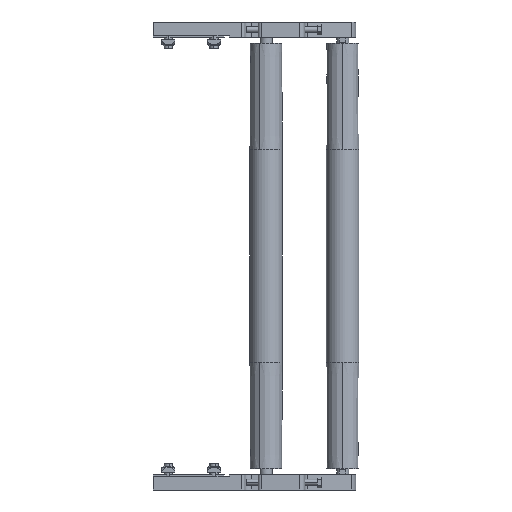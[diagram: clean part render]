
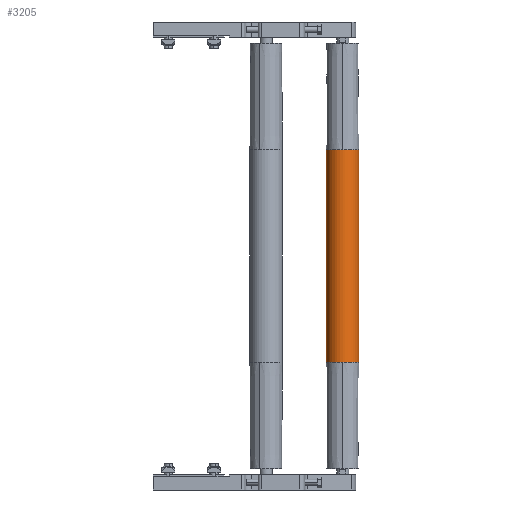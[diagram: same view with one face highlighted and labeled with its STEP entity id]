
A CAD part, front view. The second image highlights one B-rep face of the part: STEP entity #3205.
In plain terms, the highlighted cylindrical face has radius 16 mm (diameter 32 mm), a partial arc.
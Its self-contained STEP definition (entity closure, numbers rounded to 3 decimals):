
#232 = AXIS2_PLACEMENT_3D ( 'NONE', #9239, #11752, #9344 ) ;
#515 = CARTESIAN_POINT ( 'NONE',  ( 0., -16., -105. ) ) ;
#809 = DIRECTION ( 'NONE',  ( -1., 0., 0. ) ) ;
#926 = CARTESIAN_POINT ( 'NONE',  ( 0., 0., -105. ) ) ;
#1360 = VECTOR ( 'NONE', #6249, 1000. ) ;
#1707 = ORIENTED_EDGE ( 'NONE', *, *, #9451, .F. ) ;
#1891 = EDGE_CURVE ( 'NONE', #6751, #11869, #9816, .T. ) ;
#2155 = CARTESIAN_POINT ( 'NONE',  ( 16., 0., 210. ) ) ;
#2210 = DIRECTION ( 'NONE',  ( 0., 0., 1. ) ) ;
#2264 = DIRECTION ( 'NONE',  ( 0., -1., 0. ) ) ;
#2332 = CARTESIAN_POINT ( 'NONE',  ( 0., 0., -105. ) ) ;
#3205 = ADVANCED_FACE ( 'NONE', ( #10580 ), #10990, .T. ) ;
#3261 = CARTESIAN_POINT ( 'NONE',  ( -16., 0., -105. ) ) ;
#3507 = CARTESIAN_POINT ( 'NONE',  ( 0., 0., 105. ) ) ;
#3659 = CARTESIAN_POINT ( 'NONE',  ( 0., -16., 105. ) ) ;
#3833 = AXIS2_PLACEMENT_3D ( 'NONE', #13667, #8458, #809 ) ;
#4119 = AXIS2_PLACEMENT_3D ( 'NONE', #3507, #7497, #2264 ) ;
#4217 = ORIENTED_EDGE ( 'NONE', *, *, #7643, .F. ) ;
#5321 = ORIENTED_EDGE ( 'NONE', *, *, #15412, .T. ) ;
#5721 = CARTESIAN_POINT ( 'NONE',  ( 16., 0., -105. ) ) ;
#5794 = CARTESIAN_POINT ( 'NONE',  ( 16., 0., 105. ) ) ;
#6249 = DIRECTION ( 'NONE',  ( 0., 0., -1. ) ) ;
#6622 = VERTEX_POINT ( 'NONE', #16087 ) ;
#6751 = VERTEX_POINT ( 'NONE', #515 ) ;
#7341 = DIRECTION ( 'NONE',  ( 0., 0., -1. ) ) ;
#7497 = DIRECTION ( 'NONE',  ( 0., 0., 1. ) ) ;
#7505 = VERTEX_POINT ( 'NONE', #3659 ) ;
#7625 = DIRECTION ( 'NONE',  ( 0., -1., 0. ) ) ;
#7643 = EDGE_CURVE ( 'NONE', #7505, #11153, #14950, .T. ) ;
#8458 = DIRECTION ( 'NONE',  ( 0., 0., -1. ) ) ;
#8640 = DIRECTION ( 'NONE',  ( 0., -1., 0. ) ) ;
#9239 = CARTESIAN_POINT ( 'NONE',  ( 0., 0., 105. ) ) ;
#9344 = DIRECTION ( 'NONE',  ( 0., -1., 0. ) ) ;
#9451 = EDGE_CURVE ( 'NONE', #11153, #11869, #12007, .T. ) ;
#9816 = CIRCLE ( 'NONE', #16655, 16. ) ;
#9843 = ORIENTED_EDGE ( 'NONE', *, *, #14888, .T. ) ;
#9920 = EDGE_CURVE ( 'NONE', #6622, #7505, #14473, .T. ) ;
#10580 = FACE_OUTER_BOUND ( 'NONE', #15743, .T. ) ;
#10990 = CYLINDRICAL_SURFACE ( 'NONE', #3833, 16. ) ;
#11153 = VERTEX_POINT ( 'NONE', #5794 ) ;
#11396 = ORIENTED_EDGE ( 'NONE', *, *, #9920, .F. ) ;
#11752 = DIRECTION ( 'NONE',  ( 0., 0., 1. ) ) ;
#11845 = VERTEX_POINT ( 'NONE', #3261 ) ;
#11869 = VERTEX_POINT ( 'NONE', #5721 ) ;
#12007 = LINE ( 'NONE', #2155, #14491 ) ;
#13667 = CARTESIAN_POINT ( 'NONE',  ( 0., 0., 210. ) ) ;
#13937 = AXIS2_PLACEMENT_3D ( 'NONE', #926, #2210, #8640 ) ;
#14473 = CIRCLE ( 'NONE', #4119, 16. ) ;
#14491 = VECTOR ( 'NONE', #7341, 1000. ) ;
#14888 = EDGE_CURVE ( 'NONE', #6622, #11845, #15278, .T. ) ;
#14950 = CIRCLE ( 'NONE', #232, 16. ) ;
#15261 = CIRCLE ( 'NONE', #13937, 16. ) ;
#15278 = LINE ( 'NONE', #16798, #1360 ) ;
#15412 = EDGE_CURVE ( 'NONE', #11845, #6751, #15261, .T. ) ;
#15743 = EDGE_LOOP ( 'NONE', ( #1707, #4217, #11396, #9843, #5321, #15830 ) ) ;
#15830 = ORIENTED_EDGE ( 'NONE', *, *, #1891, .T. ) ;
#16087 = CARTESIAN_POINT ( 'NONE',  ( -16., 0., 105. ) ) ;
#16655 = AXIS2_PLACEMENT_3D ( 'NONE', #2332, #16656, #7625 ) ;
#16656 = DIRECTION ( 'NONE',  ( 0., 0., 1. ) ) ;
#16798 = CARTESIAN_POINT ( 'NONE',  ( -16., 0., 210. ) ) ;
